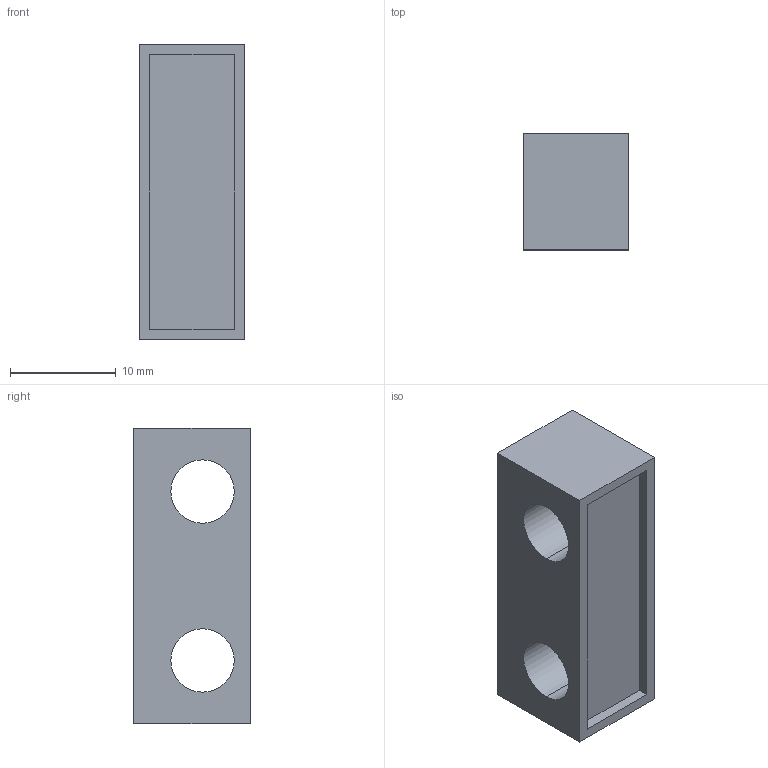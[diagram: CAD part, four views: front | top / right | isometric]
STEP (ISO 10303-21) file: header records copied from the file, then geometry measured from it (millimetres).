
FILE_DESCRIPTION (( 'STEP AP214' ), '1' );
FILE_NAME ('CESV-SE_P.STEP', '2019-05-17T11:38:11', ( '' ), ( '' ), 'SwSTEP 2.0', 'SolidWorks 2018', '' );
FILE_SCHEMA (( 'AUTOMOTIVE_DESIGN' ));
Length unit declared in the file: millimetre
Products named in the file (1): CESV-SE_P
Bounding box: 10 x 11 x 28 mm (x, y, z)
Volume: 2208.3 mm3; surface area: 1806.4 mm2
Topology: 1 solids, 1 shells, 18 faces, 42 edges, 28 vertices
Faces by surface type: plane 12, cylinder 6
Entity records: 703 total; most frequent: DIRECTION 92, CARTESIAN_POINT 89, ORIENTED_EDGE 84, EDGE_CURVE 42, AXIS2_PLACEMENT_3D 31, LINE 30, VECTOR 30, VERTEX_POINT 28
